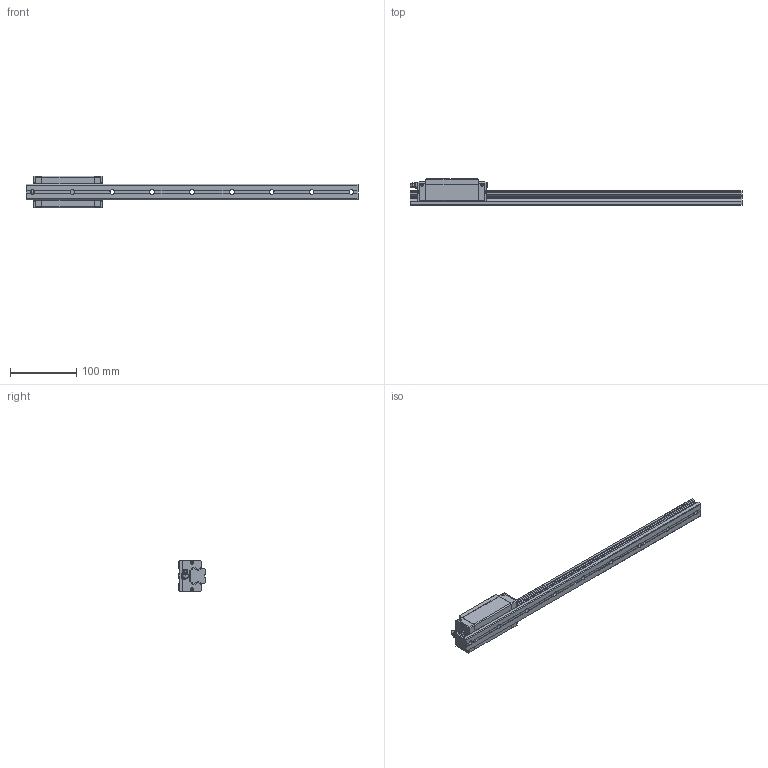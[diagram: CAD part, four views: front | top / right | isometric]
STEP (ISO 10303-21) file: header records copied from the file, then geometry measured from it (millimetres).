
FILE_DESCRIPTION(/* description */ ('STEP AP214'),/* implementation_level */ '2;1');
FILE_NAME(/* name */ 'D:\Katalogi inne\Technika liniowa\NATECH\Modele 3D\nowe 11.02.2026\SHAC_GHH25HA1R500Z0C101011\NGH25HAZ0C.stp',/* time_stamp */ '2026-02-11T16:50:08+01:00',/* author */ ('dnia_tomasz_tm'),/* organization */ ('CADENAS'),/* preprocessor_version */ 'ST-DEVELOPER v16.13',/* originating_system */ 'Autodesk Inventor 2018',/* authorisation */ ' ');
FILE_SCHEMA (('AUTOMOTIVE_DESIGN { 1 0 10303 214 3 1 1 }'));
Length unit declared in the file: millimetre
Products named in the file (8): GHH25HA1R500Z0C-10_10(1_1); GHR25R500C+RC-10_10(1)_RAIL; GHH25HA_SLIDER; GH25_BOLT; GHH25HA_C; GHH25HA_P; GH25_SCREW; GH25-_G
Assembly tree (12 placements, depth 2):
  GHH25HA1R500Z0C-10_10(1_1)
    GHR25R500C+RC-10_10(1)_RAIL
    GHH25HA_SLIDER
    GHH25HA_C  x2
    GHH25HA_P  x2
    GH25_SCREW  x4
    GH25_BOLT
    GH25-_G
Bounding box: 500 x 40 x 48 mm (x, y, z)
Volume: 339626.7 mm3; surface area: 84037.2 mm2
Topology: 12 solids, 12 shells, 494 faces, 1328 edges, 874 vertices
Faces by surface type: plane 376, cylinder 78, cone 24, torus 10, sphere 5, bspline 1
Full cylindrical faces by diameter (mm): 0.526 x4, 3 x4, 3.725 x4, 3.9 x4, 4.5 x1, 4.917 x4, 6 x2, 6.5 x2, 7 x9, 7.3 x2, 8 x1, 8.2 x1, 11 x9
Entity records: 10137 total; most frequent: CARTESIAN_POINT 1793, DIRECTION 1679, ORIENTED_EDGE 1606, EDGE_CURVE 803, AXIS2_PLACEMENT_3D 563, VERTEX_POINT 557, LINE 553, VECTOR 553
